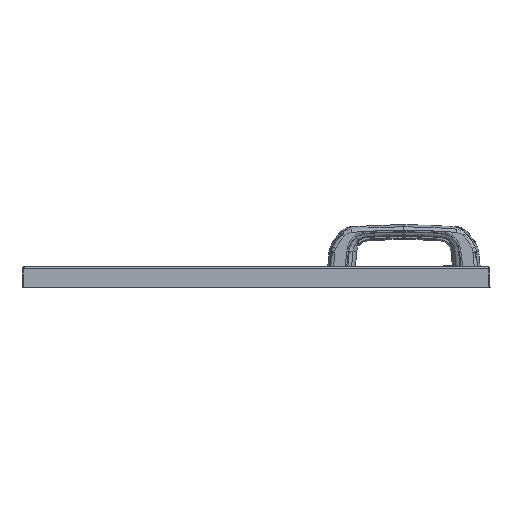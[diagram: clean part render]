
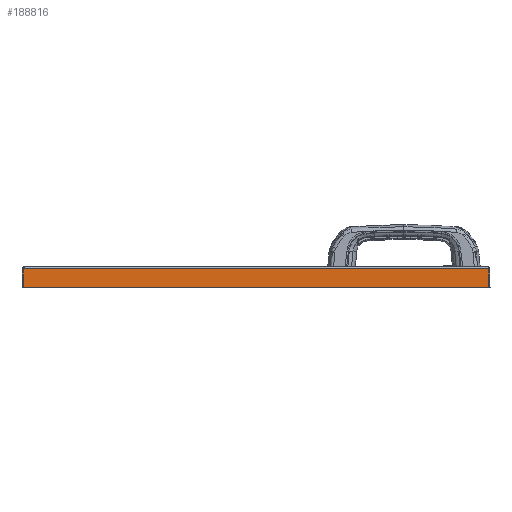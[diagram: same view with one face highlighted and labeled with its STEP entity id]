
A CAD part, left-side view. The second image highlights one B-rep face of the part: STEP entity #188816.
In plain terms, the highlighted planar face has unit normal (-1, 0, 0).
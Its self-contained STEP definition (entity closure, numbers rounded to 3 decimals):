
#181116=CARTESIAN_POINT(' ',(0.,447.,-2.3));
#181117=VERTEX_POINT(' ',#181116);
#181131=CARTESIAN_POINT(' ',(0.,447.,-2.3));
#181136=DIRECTION(' ',(0.,-1.,0.));
#181141=VECTOR(' ',#181136,1.);
#181146=LINE('',#181131,#181141);
#181151=CARTESIAN_POINT(' ',(0.,0.,-2.3));
#181152=VERTEX_POINT(' ',#181151);
#181156=EDGE_CURVE(' ',#181117,#181152,#181146,.T.);
#188676=DIRECTION(' ',(-1.,-0.,-0.));
#188681=CARTESIAN_POINT(' ',(0.,0.,-2.3));
#188686=DIRECTION(' ',(-0.,1.,0.));
#188691=AXIS2_PLACEMENT_3D(' ',#188681,#188676,#188686);
#188696=PLANE('NONE',#188691);
#188701=CARTESIAN_POINT(' ',(0.,0.,-20.));
#188706=DIRECTION(' ',(0.,0.,1.));
#188711=VECTOR(' ',#188706,1.);
#188716=LINE('',#188701,#188711);
#188721=CARTESIAN_POINT(' ',(0.,0.,-20.));
#188722=VERTEX_POINT(' ',#188721);
#188726=EDGE_CURVE(' ',#188722,#181152,#188716,.T.);
#188731=ORIENTED_EDGE(' ',*,*,#188726,.T.);
#188736=ORIENTED_EDGE(' ',*,*,#181156,.F.);
#188741=CARTESIAN_POINT(' ',(0.,447.,-20.));
#188746=DIRECTION(' ',(0.,0.,1.));
#188751=VECTOR(' ',#188746,1.);
#188756=LINE('',#188741,#188751);
#188761=CARTESIAN_POINT(' ',(0.,447.,-20.));
#188762=VERTEX_POINT(' ',#188761);
#188766=EDGE_CURVE(' ',#188762,#181117,#188756,.T.);
#188771=ORIENTED_EDGE(' ',*,*,#188766,.F.);
#188776=CARTESIAN_POINT(' ',(0.,447.,-20.));
#188781=DIRECTION(' ',(0.,-1.,0.));
#188786=VECTOR(' ',#188781,1.);
#188791=LINE('',#188776,#188786);
#188796=EDGE_CURVE(' ',#188762,#188722,#188791,.T.);
#188801=ORIENTED_EDGE(' ',*,*,#188796,.T.);
#188806=EDGE_LOOP(' ',(#188731,#188736,#188771,#188801));
#188811=FACE_OUTER_BOUND(' ',#188806,.T.);
#188816=ADVANCED_FACE('NONE',(#188811),#188696,.T.);
